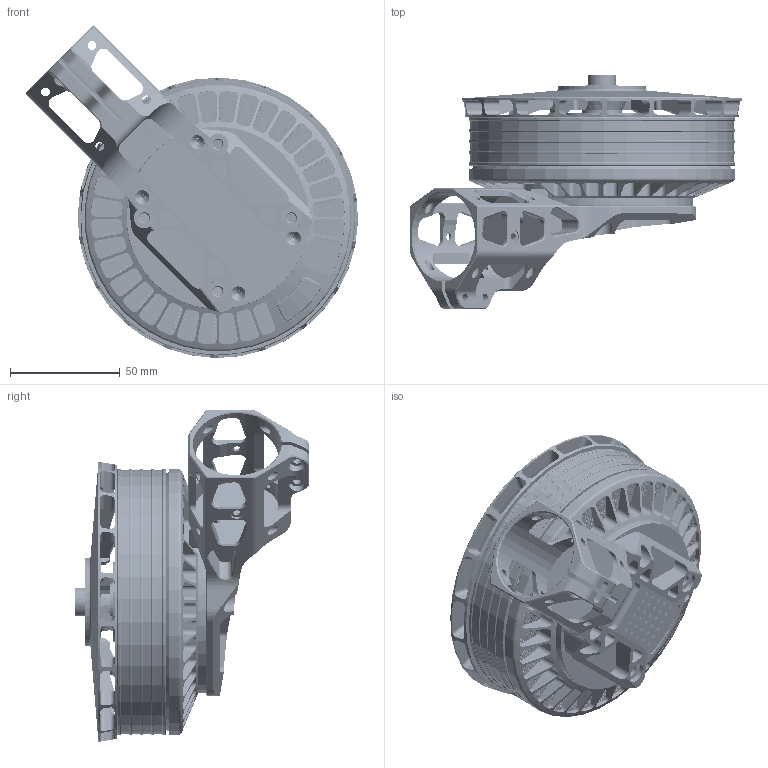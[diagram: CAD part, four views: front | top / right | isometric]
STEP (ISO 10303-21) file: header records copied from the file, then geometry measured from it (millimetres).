
FILE_DESCRIPTION (( 'STEP AP214' ), '1' );
FILE_NAME ('I11.STEP', '2026-08-24T07:49:49', ( '' ), ( '' ), 'SwSTEP 2.0', 'SolidWorks 2022', '' );
FILE_SCHEMA (( 'AUTOMOTIVE_DESIGN' ));
Length unit declared in the file: millimetre
Products named in the file (18): Y0101001560-11116锁轴垫片-A; 锁轴垫片盖板; 11116底盖-B - 副本; 11116灯罩-A(I7); -11116机臂-A; 镀镍弧形磁铁-N-A; 11116钢圈-A; 11116后盖-C; 11116定子; 11116防尘网B-A; 11116铁芯-15CS1200HF; 11116前盖-A; 轴承32x15x9-; I11; 11116转子; 11116灯板-A(I7); 镀镍弧形磁铁-S-A; 11116钢轴-A
Assembly tree (59 placements, depth 3):
  I11
    11116定子
      11116后盖-C
      11116铁芯-15CS1200HF
      轴承32x15x9-  x2
    11116转子
      11116前盖-A
      11116钢圈-A
      镀镍弧形磁铁-N-A  x21
      镀镍弧形磁铁-S-A  x21
      11116钢轴-A
    Y0101001560-11116锁轴垫片-A
    11116灯板-A(I7)  x2
    11116灯罩-A(I7)
    11116防尘网B-A
    11116底盖-B - 副本
    -11116机臂-A
    锁轴垫片盖板
Bounding box: 151.13 x 106.8 x 151.13 mm (x, y, z)
Volume: 229740.8 mm3; surface area: 219958.3 mm2
Topology: 57 solids, 57 shells, 6870 faces, 20196 edges, 13415 vertices
Faces by surface type: cylinder 5088, plane 1395, cone 255, torus 82, bspline 38, sphere 12
Entity records: 237730 total; most frequent: CARTESIAN_POINT 46495, DIRECTION 39571, ORIENTED_EDGE 36814, EDGE_CURVE 18407, AXIS2_PLACEMENT_3D 15845, VERTEX_POINT 12130, EDGE_LOOP 9707, CIRCLE 9492
